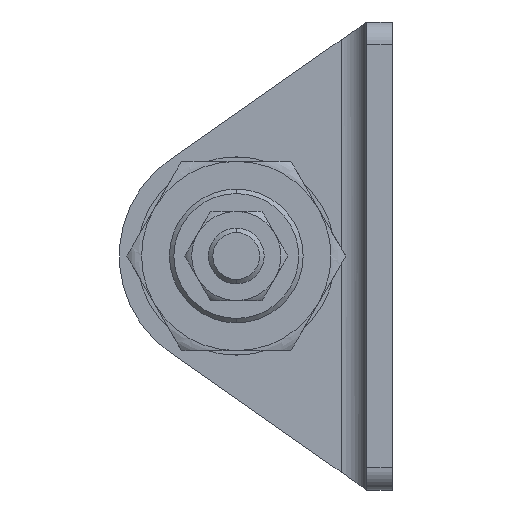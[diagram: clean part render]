
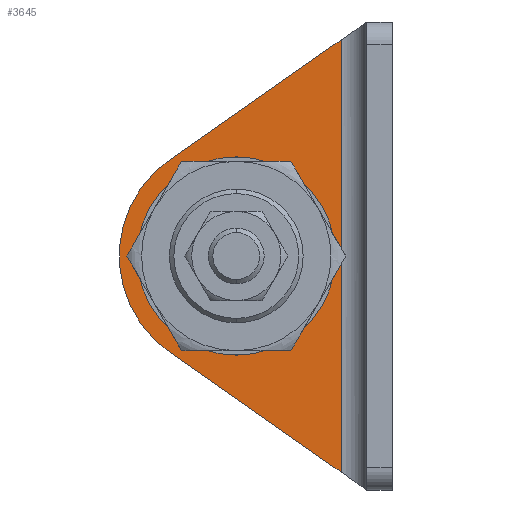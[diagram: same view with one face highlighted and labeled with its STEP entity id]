
A CAD part, left-side view. The second image highlights one B-rep face of the part: STEP entity #3645.
In plain terms, the highlighted planar face has unit normal (-1, 0, 0).
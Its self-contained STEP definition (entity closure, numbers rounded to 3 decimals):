
#158 = EDGE_CURVE ( 'NONE', #3778, #3955, #1977, .T. ) ;
#188 = DIRECTION ( 'NONE',  ( -1., 0., 0. ) ) ;
#194 = CARTESIAN_POINT ( 'NONE',  ( -2.3, 4.6, -19.391 ) ) ;
#258 = CARTESIAN_POINT ( 'NONE',  ( -2.3, 22.028, -7.198 ) ) ;
#264 = CARTESIAN_POINT ( 'NONE',  ( -2.3, 2.3, 21. ) ) ;
#319 = ORIENTED_EDGE ( 'NONE', *, *, #2530, .T. ) ;
#342 = LINE ( 'NONE', #2405, #2138 ) ;
#374 = DIRECTION ( 'NONE',  ( 0., -1., 0. ) ) ;
#424 = AXIS2_PLACEMENT_3D ( 'NONE', #264, #188, #2648 ) ;
#444 = CARTESIAN_POINT ( 'NONE',  ( -2.3, 14., 0. ) ) ;
#616 = EDGE_CURVE ( 'NONE', #3136, #1683, #3067, .T. ) ;
#734 = AXIS2_PLACEMENT_3D ( 'NONE', #444, #3718, #374 ) ;
#951 = CARTESIAN_POINT ( 'NONE',  ( -2.3, 20.019, 8.604 ) ) ;
#1007 = DIRECTION ( 'NONE',  ( -1., 0., 0. ) ) ;
#1102 = VERTEX_POINT ( 'NONE', #951 ) ;
#1115 = FACE_OUTER_BOUND ( 'NONE', #2773, .T. ) ;
#1145 = LINE ( 'NONE', #1517, #1185 ) ;
#1163 = CARTESIAN_POINT ( 'NONE',  ( -2.3, 14., 0. ) ) ;
#1185 = VECTOR ( 'NONE', #3964, 1000. ) ;
#1266 = ORIENTED_EDGE ( 'NONE', *, *, #158, .T. ) ;
#1365 = AXIS2_PLACEMENT_3D ( 'NONE', #1163, #3917, #1893 ) ;
#1517 = CARTESIAN_POINT ( 'NONE',  ( -2.3, 4.6, 21. ) ) ;
#1549 = CARTESIAN_POINT ( 'NONE',  ( -2.3, 5.1, 0. ) ) ;
#1607 = AXIS2_PLACEMENT_3D ( 'NONE', #3630, #1007, #3885 ) ;
#1615 = VERTEX_POINT ( 'NONE', #3185 ) ;
#1654 = ORIENTED_EDGE ( 'NONE', *, *, #616, .F. ) ;
#1682 = CARTESIAN_POINT ( 'NONE',  ( -2.3, 20.019, -8.604 ) ) ;
#1683 = VERTEX_POINT ( 'NONE', #1549 ) ;
#1893 = DIRECTION ( 'NONE',  ( 0., -1., 0. ) ) ;
#1975 = EDGE_CURVE ( 'NONE', #1615, #3955, #1145, .T. ) ;
#1977 = LINE ( 'NONE', #258, #3254 ) ;
#1981 = PLANE ( 'NONE',  #424 ) ;
#2133 = CIRCLE ( 'NONE', #1365, 10.5 ) ;
#2138 = VECTOR ( 'NONE', #2859, 1000. ) ;
#2326 = EDGE_LOOP ( 'NONE', ( #2428, #1654 ) ) ;
#2405 = CARTESIAN_POINT ( 'NONE',  ( -2.3, 2.3, 21. ) ) ;
#2428 = ORIENTED_EDGE ( 'NONE', *, *, #2432, .F. ) ;
#2432 = EDGE_CURVE ( 'NONE', #1683, #3136, #3744, .T. ) ;
#2530 = EDGE_CURVE ( 'NONE', #1615, #1102, #342, .T. ) ;
#2648 = DIRECTION ( 'NONE',  ( 0., -1., 0. ) ) ;
#2773 = EDGE_LOOP ( 'NONE', ( #319, #3294, #1266, #3012 ) ) ;
#2800 = EDGE_CURVE ( 'NONE', #1102, #3778, #2133, .T. ) ;
#2837 = DIRECTION ( 'NONE',  ( 0., -0.819, -0.573 ) ) ;
#2838 = FACE_BOUND ( 'NONE', #2326, .T. ) ;
#2859 = DIRECTION ( 'NONE',  ( 0., 0.819, -0.573 ) ) ;
#3012 = ORIENTED_EDGE ( 'NONE', *, *, #1975, .F. ) ;
#3067 = CIRCLE ( 'NONE', #734, 8.9 ) ;
#3136 = VERTEX_POINT ( 'NONE', #3803 ) ;
#3185 = CARTESIAN_POINT ( 'NONE',  ( -2.3, 4.6, 19.391 ) ) ;
#3254 = VECTOR ( 'NONE', #2837, 1000. ) ;
#3294 = ORIENTED_EDGE ( 'NONE', *, *, #2800, .T. ) ;
#3630 = CARTESIAN_POINT ( 'NONE',  ( -2.3, 14., 0. ) ) ;
#3645 = ADVANCED_FACE ( 'NONE', ( #2838, #1115 ), #1981, .T. ) ;
#3718 = DIRECTION ( 'NONE',  ( -1., 0., 0. ) ) ;
#3744 = CIRCLE ( 'NONE', #1607, 8.9 ) ;
#3778 = VERTEX_POINT ( 'NONE', #1682 ) ;
#3803 = CARTESIAN_POINT ( 'NONE',  ( -2.3, 22.9, 0. ) ) ;
#3885 = DIRECTION ( 'NONE',  ( 0., -1., 0. ) ) ;
#3917 = DIRECTION ( 'NONE',  ( -1., 0., 0. ) ) ;
#3955 = VERTEX_POINT ( 'NONE', #194 ) ;
#3964 = DIRECTION ( 'NONE',  ( 0., 0., -1. ) ) ;
